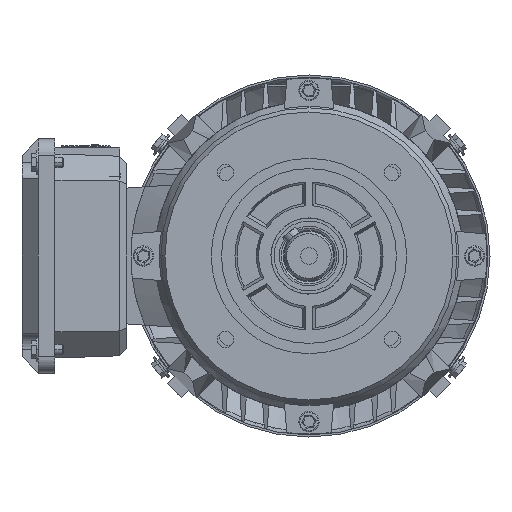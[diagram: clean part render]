
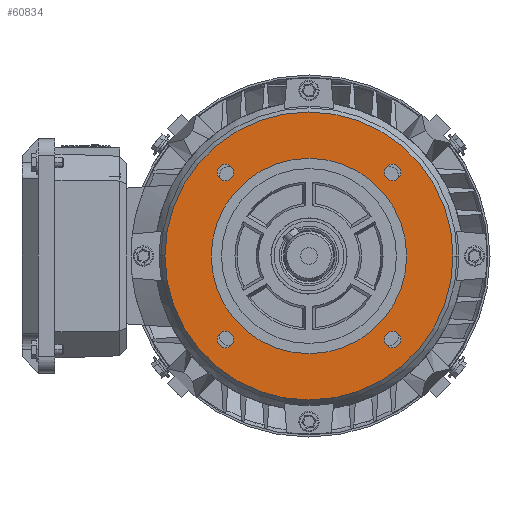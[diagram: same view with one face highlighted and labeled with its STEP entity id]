
A CAD part, left-side view. The second image highlights one B-rep face of the part: STEP entity #60834.
In plain terms, the highlighted planar face has unit normal (-1, 0, 0).
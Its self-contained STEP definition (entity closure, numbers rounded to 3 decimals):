
#51302 = EDGE_LOOP ( 'NONE', ( #60937, #60816 ) ) ;
#57747 = VERTEX_POINT ( 'NONE', #90142 ) ;
#57771 = VERTEX_POINT ( 'NONE', #90189 ) ;
#57818 = EDGE_CURVE ( 'NONE', #57820, #57822, #90208, .T. ) ;
#57820 = VERTEX_POINT ( 'NONE', #90198 ) ;
#57822 = VERTEX_POINT ( 'NONE', #90197 ) ;
#57827 = EDGE_CURVE ( 'NONE', #57747, #57828, #90256, .T. ) ;
#57828 = VERTEX_POINT ( 'NONE', #90251 ) ;
#57852 = EDGE_CURVE ( 'NONE', #57853, #57854, #90228, .T. ) ;
#57853 = VERTEX_POINT ( 'NONE', #90286 ) ;
#57854 = VERTEX_POINT ( 'NONE', #90285 ) ;
#57858 = EDGE_CURVE ( 'NONE', #57771, #57862, #90284, .T. ) ;
#57862 = VERTEX_POINT ( 'NONE', #90279 ) ;
#58456 = VERTEX_POINT ( 'NONE', #91039 ) ;
#58459 = EDGE_CURVE ( 'NONE', #58552, #58456, #91038, .T. ) ;
#58476 = EDGE_CURVE ( 'NONE', #58477, #58478, #91079, .T. ) ;
#58477 = VERTEX_POINT ( 'NONE', #91074 ) ;
#58478 = VERTEX_POINT ( 'NONE', #91073 ) ;
#58552 = VERTEX_POINT ( 'NONE', #91163 ) ;
#60816 = ORIENTED_EDGE ( 'NONE', *, *, #57818, .T. ) ;
#60819 = EDGE_LOOP ( 'NONE', ( #60820, #60821 ) ) ;
#60820 = ORIENTED_EDGE ( 'NONE', *, *, #58476, .F. ) ;
#60821 = ORIENTED_EDGE ( 'NONE', *, *, #60822, .F. ) ;
#60822 = EDGE_CURVE ( 'NONE', #58478, #58477, #93738, .T. ) ;
#60823 = EDGE_LOOP ( 'NONE', ( #60825, #60827 ) ) ;
#60825 = ORIENTED_EDGE ( 'NONE', *, *, #58459, .T. ) ;
#60827 = ORIENTED_EDGE ( 'NONE', *, *, #60877, .T. ) ;
#60834 = ADVANCED_FACE ( 'NONE', ( #93731, #93726, #93725, #93724, #93723, #93722 ), #93721, .F. ) ;
#60836 = EDGE_LOOP ( 'NONE', ( #60842, #60845 ) ) ;
#60842 = ORIENTED_EDGE ( 'NONE', *, *, #60843, .T. ) ;
#60843 = EDGE_CURVE ( 'NONE', #57862, #57771, #93709, .T. ) ;
#60845 = ORIENTED_EDGE ( 'NONE', *, *, #57858, .T. ) ;
#60848 = EDGE_LOOP ( 'NONE', ( #60850, #60853 ) ) ;
#60850 = ORIENTED_EDGE ( 'NONE', *, *, #60852, .T. ) ;
#60852 = EDGE_CURVE ( 'NONE', #57828, #57747, #93770, .T. ) ;
#60853 = ORIENTED_EDGE ( 'NONE', *, *, #57827, .T. ) ;
#60854 = EDGE_LOOP ( 'NONE', ( #60855, #60859 ) ) ;
#60855 = ORIENTED_EDGE ( 'NONE', *, *, #60857, .T. ) ;
#60857 = EDGE_CURVE ( 'NONE', #57854, #57853, #93765, .T. ) ;
#60859 = ORIENTED_EDGE ( 'NONE', *, *, #57852, .T. ) ;
#60877 = EDGE_CURVE ( 'NONE', #58456, #58552, #93753, .T. ) ;
#60937 = ORIENTED_EDGE ( 'NONE', *, *, #60938, .T. ) ;
#60938 = EDGE_CURVE ( 'NONE', #57822, #57820, #93841, .T. ) ;
#90142 = CARTESIAN_POINT ( 'NONE',  ( 0., 40.659, -36.659 ) ) ;
#90189 = CARTESIAN_POINT ( 'NONE',  ( 0., -40.659, -36.659 ) ) ;
#90197 = CARTESIAN_POINT ( 'NONE',  ( 0., -40.659, 36.659 ) ) ;
#90198 = CARTESIAN_POINT ( 'NONE',  ( 0., -40.659, 44.659 ) ) ;
#90199 = DIRECTION ( 'NONE',  ( 0., 0., -1. ) ) ;
#90200 = DIRECTION ( 'NONE',  ( 1., 0., 0. ) ) ;
#90201 = CARTESIAN_POINT ( 'NONE',  ( 0., -40.659, 40.659 ) ) ;
#90202 = AXIS2_PLACEMENT_3D ( 'NONE', #90201, #90200, #90199 ) ;
#90208 = CIRCLE ( 'NONE', #90202, 4. ) ;
#90227 = AXIS2_PLACEMENT_3D ( 'NONE', #90289, #90288, #90287 ) ;
#90228 = CIRCLE ( 'NONE', #90227, 4. ) ;
#90251 = CARTESIAN_POINT ( 'NONE',  ( 0., 40.659, -44.659 ) ) ;
#90252 = DIRECTION ( 'NONE',  ( 0., 0., -1. ) ) ;
#90253 = DIRECTION ( 'NONE',  ( 1., 0., 0. ) ) ;
#90254 = CARTESIAN_POINT ( 'NONE',  ( 0., 40.659, -40.659 ) ) ;
#90255 = AXIS2_PLACEMENT_3D ( 'NONE', #90254, #90253, #90252 ) ;
#90256 = CIRCLE ( 'NONE', #90255, 4. ) ;
#90279 = CARTESIAN_POINT ( 'NONE',  ( 0., -40.659, -44.659 ) ) ;
#90280 = DIRECTION ( 'NONE',  ( 0., 0., -1. ) ) ;
#90281 = DIRECTION ( 'NONE',  ( 1., 0., 0. ) ) ;
#90282 = CARTESIAN_POINT ( 'NONE',  ( 0., -40.659, -40.659 ) ) ;
#90283 = AXIS2_PLACEMENT_3D ( 'NONE', #90282, #90281, #90280 ) ;
#90284 = CIRCLE ( 'NONE', #90283, 4. ) ;
#90285 = CARTESIAN_POINT ( 'NONE',  ( 0., 40.659, 36.659 ) ) ;
#90286 = CARTESIAN_POINT ( 'NONE',  ( 0., 40.659, 44.659 ) ) ;
#90287 = DIRECTION ( 'NONE',  ( 0., 0., -1. ) ) ;
#90288 = DIRECTION ( 'NONE',  ( 1., 0., 0. ) ) ;
#90289 = CARTESIAN_POINT ( 'NONE',  ( 0., 40.659, 40.659 ) ) ;
#91034 = DIRECTION ( 'NONE',  ( 0., 0., 1. ) ) ;
#91035 = DIRECTION ( 'NONE',  ( -1., 0., 0. ) ) ;
#91036 = CARTESIAN_POINT ( 'NONE',  ( 0., 0., 0. ) ) ;
#91037 = AXIS2_PLACEMENT_3D ( 'NONE', #91036, #91035, #91034 ) ;
#91038 = CIRCLE ( 'NONE', #91037, 70. ) ;
#91039 = CARTESIAN_POINT ( 'NONE',  ( 0., 0., -70. ) ) ;
#91073 = CARTESIAN_POINT ( 'NONE',  ( 0., 0., -47.5 ) ) ;
#91074 = CARTESIAN_POINT ( 'NONE',  ( 0., 0., 47.5 ) ) ;
#91075 = DIRECTION ( 'NONE',  ( 0., 0., 1. ) ) ;
#91076 = DIRECTION ( 'NONE',  ( -1., 0., 0. ) ) ;
#91077 = CARTESIAN_POINT ( 'NONE',  ( 0., 0., 0. ) ) ;
#91078 = AXIS2_PLACEMENT_3D ( 'NONE', #91077, #91076, #91075 ) ;
#91079 = CIRCLE ( 'NONE', #91078, 47.5 ) ;
#91163 = CARTESIAN_POINT ( 'NONE',  ( 0., 0., 70. ) ) ;
#93706 = DIRECTION ( 'NONE',  ( 0., 0., -1. ) ) ;
#93707 = DIRECTION ( 'NONE',  ( 1., 0., 0. ) ) ;
#93708 = AXIS2_PLACEMENT_3D ( 'NONE', #93713, #93707, #93706 ) ;
#93709 = CIRCLE ( 'NONE', #93708, 4. ) ;
#93713 = CARTESIAN_POINT ( 'NONE',  ( 0., -40.659, -40.659 ) ) ;
#93716 = DIRECTION ( 'NONE',  ( 0., 0., -1. ) ) ;
#93717 = DIRECTION ( 'NONE',  ( 1., 0., 0. ) ) ;
#93718 = AXIS2_PLACEMENT_3D ( 'NONE', #93720, #93717, #93716 ) ;
#93720 = CARTESIAN_POINT ( 'NONE',  ( 0., -7.318, 0. ) ) ;
#93721 = PLANE ( 'NONE',  #93718 ) ;
#93722 = FACE_OUTER_BOUND ( 'NONE', #60823, .T. ) ;
#93723 = FACE_BOUND ( 'NONE', #60819, .T. ) ;
#93724 = FACE_BOUND ( 'NONE', #51302, .T. ) ;
#93725 = FACE_BOUND ( 'NONE', #60854, .T. ) ;
#93726 = FACE_BOUND ( 'NONE', #60848, .T. ) ;
#93731 = FACE_BOUND ( 'NONE', #60836, .T. ) ;
#93734 = DIRECTION ( 'NONE',  ( 0., 0., 1. ) ) ;
#93735 = DIRECTION ( 'NONE',  ( -1., 0., 0. ) ) ;
#93736 = CARTESIAN_POINT ( 'NONE',  ( 0., 0., 0. ) ) ;
#93737 = AXIS2_PLACEMENT_3D ( 'NONE', #93736, #93735, #93734 ) ;
#93738 = CIRCLE ( 'NONE', #93737, 47.5 ) ;
#93745 = DIRECTION ( 'NONE',  ( 0., 0., 1. ) ) ;
#93746 = DIRECTION ( 'NONE',  ( -1., 0., 0. ) ) ;
#93747 = CARTESIAN_POINT ( 'NONE',  ( 0., 0., 0. ) ) ;
#93748 = AXIS2_PLACEMENT_3D ( 'NONE', #93747, #93746, #93745 ) ;
#93753 = CIRCLE ( 'NONE', #93748, 70. ) ;
#93761 = DIRECTION ( 'NONE',  ( 0., 0., -1. ) ) ;
#93762 = DIRECTION ( 'NONE',  ( 1., 0., 0. ) ) ;
#93763 = CARTESIAN_POINT ( 'NONE',  ( 0., 40.659, 40.659 ) ) ;
#93764 = AXIS2_PLACEMENT_3D ( 'NONE', #93763, #93762, #93761 ) ;
#93765 = CIRCLE ( 'NONE', #93764, 4. ) ;
#93766 = DIRECTION ( 'NONE',  ( 0., 0., -1. ) ) ;
#93767 = DIRECTION ( 'NONE',  ( 1., 0., 0. ) ) ;
#93768 = CARTESIAN_POINT ( 'NONE',  ( 0., 40.659, -40.659 ) ) ;
#93769 = AXIS2_PLACEMENT_3D ( 'NONE', #93768, #93767, #93766 ) ;
#93770 = CIRCLE ( 'NONE', #93769, 4. ) ;
#93837 = DIRECTION ( 'NONE',  ( 0., 0., -1. ) ) ;
#93838 = DIRECTION ( 'NONE',  ( 1., 0., 0. ) ) ;
#93839 = CARTESIAN_POINT ( 'NONE',  ( 0., -40.659, 40.659 ) ) ;
#93840 = AXIS2_PLACEMENT_3D ( 'NONE', #93839, #93838, #93837 ) ;
#93841 = CIRCLE ( 'NONE', #93840, 4. ) ;
